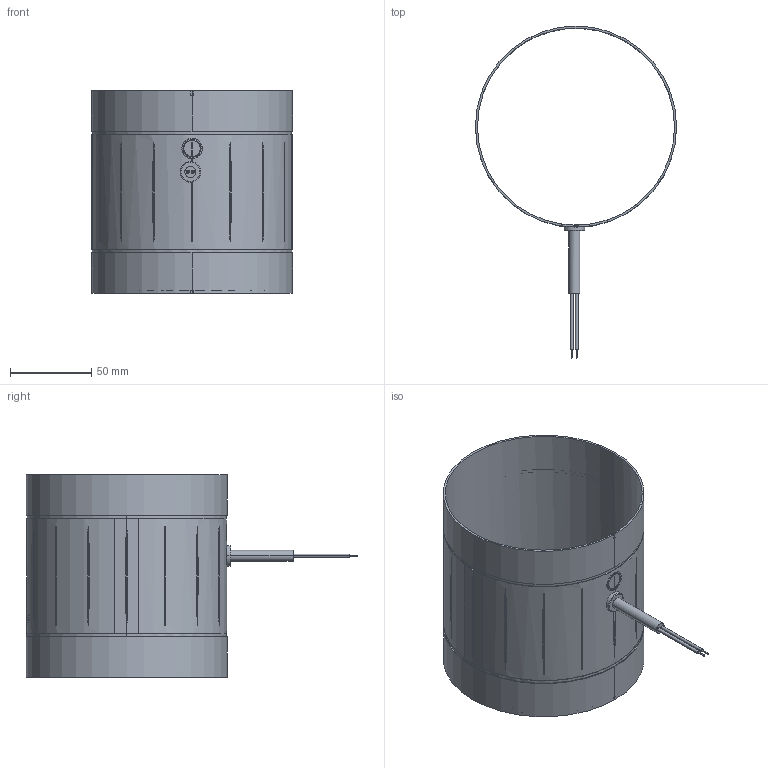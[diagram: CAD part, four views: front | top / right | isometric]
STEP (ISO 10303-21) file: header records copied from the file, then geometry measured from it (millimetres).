
FILE_DESCRIPTION (( 'STEP AP203' ), '1' );
FILE_NAME ('137550-00_EM125E201.STEP', '2016-12-06T07:40:37', ( '' ), ( '' ), 'SwSTEP 2.0', 'SolidWorks 2012', '' );
FILE_SCHEMA (( 'CONFIG_CONTROL_DESIGN' ));
Length unit declared in the file: millimetre
Products named in the file (1): 137550-00_EM125E201
Bounding box: 124.04 x 204.69 x 125 mm (x, y, z)
Volume: 53542.1 mm3; surface area: 99704.7 mm2
Topology: 3 solids, 3 shells, 209 faces, 528 edges, 351 vertices
Faces by surface type: plane 76, cylinder 65, bspline 50, cone 16, torus 2
Entity records: 11797 total; most frequent: CARTESIAN_POINT 7191, ORIENTED_EDGE 1056, DIRECTION 776, EDGE_CURVE 528, VERTEX_POINT 351, AXIS2_PLACEMENT_3D 336, B_SPLINE_CURVE_WITH_KNOTS 240, EDGE_LOOP 239
